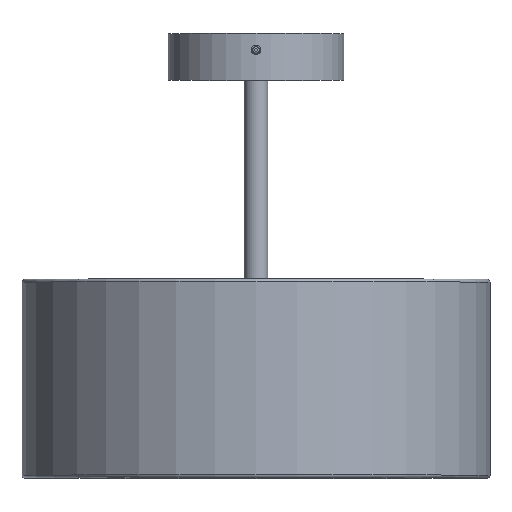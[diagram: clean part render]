
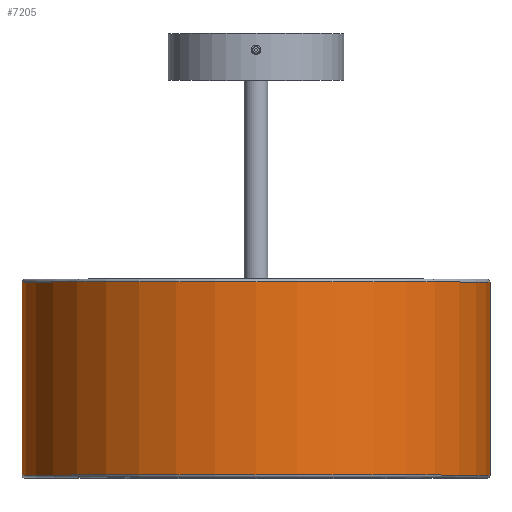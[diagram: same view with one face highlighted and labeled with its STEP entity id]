
A CAD part, top view. The second image highlights one B-rep face of the part: STEP entity #7205.
In plain terms, the highlighted cylindrical face has radius 200 mm (diameter 400 mm), a full revolution.
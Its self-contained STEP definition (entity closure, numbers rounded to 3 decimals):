
#1239=LINE('',#12205,#1982);
#1982=VECTOR('',#9945,200.);
#2068=CYLINDRICAL_SURFACE('',#7920,200.);
#2482=FACE_OUTER_BOUND('',#2922,.T.);
#2922=EDGE_LOOP('',(#6756,#6757,#6758,#6759,#6760,#6761));
#3144=CIRCLE('',#7918,200.);
#3145=CIRCLE('',#7919,200.);
#3146=CIRCLE('',#7921,200.);
#3147=CIRCLE('',#7922,200.);
#3795=VERTEX_POINT('',#12198);
#3796=VERTEX_POINT('',#12200);
#3797=VERTEX_POINT('',#12204);
#3798=VERTEX_POINT('',#12206);
#4783=EDGE_CURVE('',#3795,#3796,#3144,.T.);
#4784=EDGE_CURVE('',#3796,#3795,#3145,.T.);
#4785=EDGE_CURVE('',#3796,#3797,#1239,.T.);
#4786=EDGE_CURVE('',#3798,#3797,#3146,.T.);
#4787=EDGE_CURVE('',#3797,#3798,#3147,.T.);
#6756=ORIENTED_EDGE('',*,*,#4784,.F.);
#6757=ORIENTED_EDGE('',*,*,#4785,.T.);
#6758=ORIENTED_EDGE('',*,*,#4786,.F.);
#6759=ORIENTED_EDGE('',*,*,#4787,.F.);
#6760=ORIENTED_EDGE('',*,*,#4785,.F.);
#6761=ORIENTED_EDGE('',*,*,#4783,.F.);
#7205=ADVANCED_FACE('',(#2482),#2068,.T.);
#7918=AXIS2_PLACEMENT_3D('',#12201,#9939,#9940);
#7919=AXIS2_PLACEMENT_3D('',#12202,#9941,#9942);
#7920=AXIS2_PLACEMENT_3D('',#12203,#9943,#9944);
#7921=AXIS2_PLACEMENT_3D('',#12207,#9946,#9947);
#7922=AXIS2_PLACEMENT_3D('',#12208,#9948,#9949);
#9939=DIRECTION('center_axis',(0.,1.,0.));
#9940=DIRECTION('ref_axis',(1.,0.,0.));
#9941=DIRECTION('center_axis',(0.,1.,0.));
#9942=DIRECTION('ref_axis',(1.,0.,0.));
#9943=DIRECTION('center_axis',(0.,1.,0.));
#9944=DIRECTION('ref_axis',(1.,0.,0.));
#9945=DIRECTION('',(0.,-1.,0.));
#9946=DIRECTION('center_axis',(0.,-1.,0.));
#9947=DIRECTION('ref_axis',(1.,0.,0.));
#9948=DIRECTION('center_axis',(0.,-1.,0.));
#9949=DIRECTION('ref_axis',(1.,0.,0.));
#12198=CARTESIAN_POINT('',(0.,-212.5,-200.));
#12200=CARTESIAN_POINT('',(-200.,-212.5,0.));
#12201=CARTESIAN_POINT('Origin',(0.,-212.5,0.));
#12202=CARTESIAN_POINT('Origin',(0.,-212.5,0.));
#12203=CARTESIAN_POINT('Origin',(0.,-380.,0.));
#12204=CARTESIAN_POINT('',(-200.,-377.5,0.));
#12205=CARTESIAN_POINT('',(-200.,-380.,0.));
#12206=CARTESIAN_POINT('',(0.,-377.5,-200.));
#12207=CARTESIAN_POINT('Origin',(0.,-377.5,0.));
#12208=CARTESIAN_POINT('Origin',(0.,-377.5,0.));
